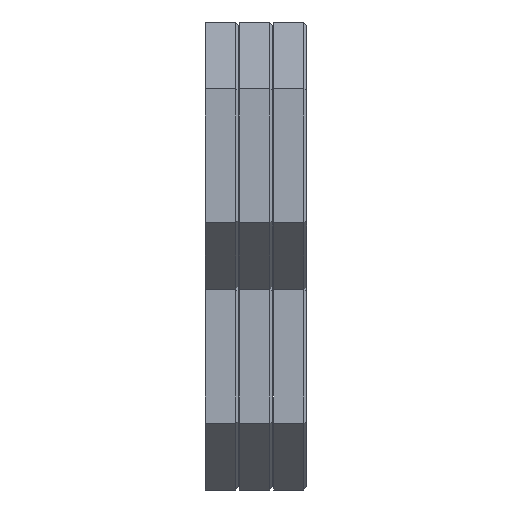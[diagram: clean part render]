
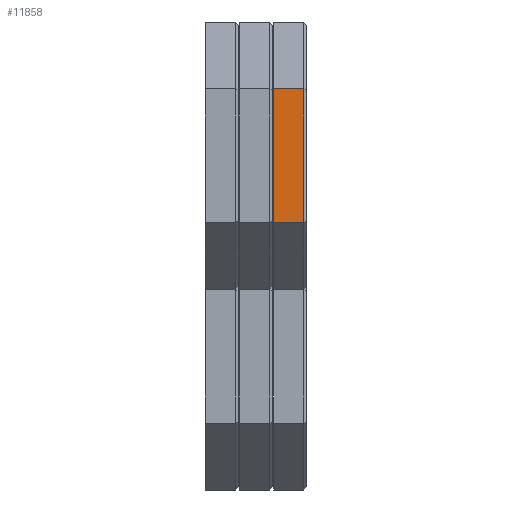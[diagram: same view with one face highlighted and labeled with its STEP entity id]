
A CAD part, front view. The second image highlights one B-rep face of the part: STEP entity #11858.
In plain terms, the highlighted planar face has unit normal (0, -1, 0).
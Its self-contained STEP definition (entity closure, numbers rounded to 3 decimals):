
#311=PLANE('',#12580);
#821=FACE_OUTER_BOUND('',#1503,.T.);
#1503=EDGE_LOOP('',(#8914,#8915,#8916,#8917));
#2750=LINE('',#19688,#4025);
#2800=LINE('',#20255,#4075);
#2805=LINE('',#20262,#4080);
#2859=LINE('',#21206,#4134);
#4025=VECTOR('',#13737,10.);
#4075=VECTOR('',#13833,10.);
#4080=VECTOR('',#13842,10.);
#4134=VECTOR('',#13968,10.);
#5305=VERTEX_POINT('',#19685);
#5306=VERTEX_POINT('',#19687);
#5353=VERTEX_POINT('',#20248);
#5355=VERTEX_POINT('',#20254);
#6556=EDGE_CURVE('',#5305,#5306,#2750,.T.);
#6622=EDGE_CURVE('',#5353,#5355,#2800,.T.);
#6627=EDGE_CURVE('',#5353,#5306,#2805,.T.);
#6696=EDGE_CURVE('',#5355,#5305,#2859,.T.);
#8914=ORIENTED_EDGE('',*,*,#6622,.F.);
#8915=ORIENTED_EDGE('',*,*,#6627,.T.);
#8916=ORIENTED_EDGE('',*,*,#6556,.F.);
#8917=ORIENTED_EDGE('',*,*,#6696,.F.);
#11858=ADVANCED_FACE('',(#821),#311,.T.);
#12580=AXIS2_PLACEMENT_3D('',#21205,#13966,#13967);
#13737=DIRECTION('',(0.,0.,1.));
#13833=DIRECTION('',(0.,0.,-1.));
#13842=DIRECTION('',(-1.,0.,0.));
#13966=DIRECTION('center_axis',(0.,-1.,0.));
#13967=DIRECTION('ref_axis',(0.,0.,
1.));
#13968=DIRECTION('',(-1.,0.,0.));
#19685=CARTESIAN_POINT('',(-6.,-63.,60.622));
#19687=CARTESIAN_POINT('',(-6.,-63.,84.87));
#19688=CARTESIAN_POINT('',(-6.,-63.,84.87));
#20248=CARTESIAN_POINT('',(-0.5,-63.,84.87));
#20254=CARTESIAN_POINT('',(-0.5,-63.,60.622));
#20255=CARTESIAN_POINT('',(-0.5,-63.,66.684));
#20262=CARTESIAN_POINT('',(0.,-63.,84.87));
#21205=CARTESIAN_POINT('Origin',(0.,-63.,
60.622));
#21206=CARTESIAN_POINT('',(0.,-63.,60.622));
